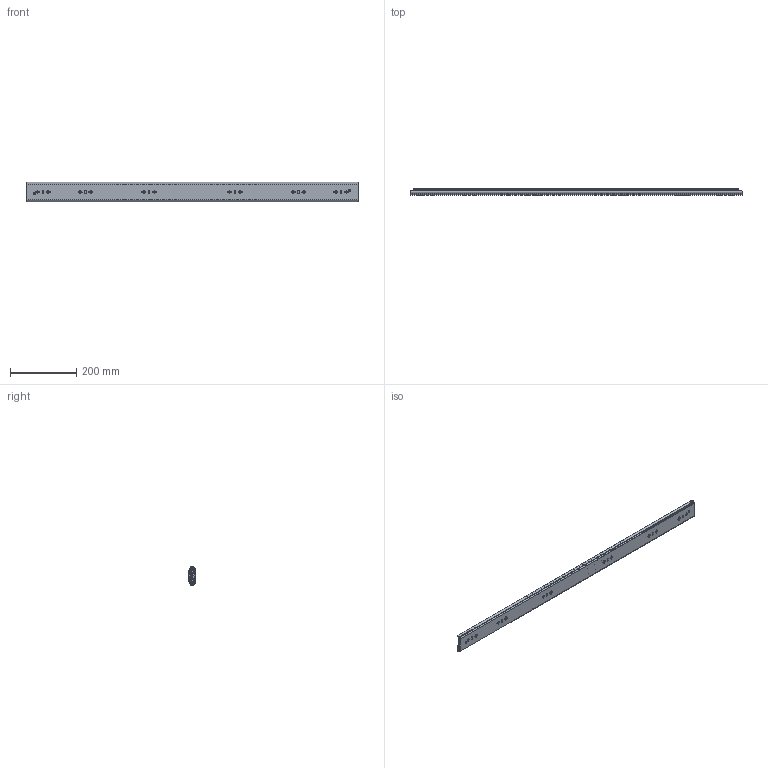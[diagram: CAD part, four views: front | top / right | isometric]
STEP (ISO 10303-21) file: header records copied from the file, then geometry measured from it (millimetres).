
FILE_DESCRIPTION((''),'2;1');
FILE_NAME('1057-C-40_ASM','2023-11-23T',('jishu015'),(''),'PRO/ENGINEER BY PARAMETRIC TECHNOLOGY CORPORATION, 2010280','PRO/ENGINEER BY PARAMETRIC TECHNOLOGY CORPORATION, 2010280','');
FILE_SCHEMA(('CONFIG_CONTROL_DESIGN'));
Products named in the file (19): KP-57-01WEIKE-31__________; MAODING-WAI__________; 1057DAZHUJIA-20GE1__________; 1057ZHUJIADANWEIJIAO123______; 1057-5-6GANZHU1__________; 1057DAZHUJIA-20GE_12__ASM; 1057-C-20-KE___________ASM; KP-57-01ZHONGGUI-36__; PEIJIAN-22__________; ZHUANJIAO112__________; LIUJIAO-DING11__________; MAODING-P__________; PEIJIAN-ZHONG___________ASM; 1057XIAOZHUJIA___20___________; 1057XIAOZHUJIA-20GE____________ASM; KP-57-01ZHONGGUI-36___ASM; KP-57-01NEIGUI-241__________; KP-57-01NEIGUI-241___________ASM; 1057-C-40_ASM
Assembly tree (160 placements, depth 4):
  1057-C-40_ASM
    1057-C-20-KE___________ASM
      KP-57-01WEIKE-31__________
      MAODING-WAI__________  x2
      1057DAZHUJIA-20GE_12__ASM
        1057DAZHUJIA-20GE1__________
        1057ZHUJIADANWEIJIAO123______  x2
        1057-5-6GANZHU1__________  x68
    KP-57-01ZHONGGUI-36___ASM
      KP-57-01ZHONGGUI-36__
      PEIJIAN-ZHONG___________ASM  x2
        PEIJIAN-22__________
        ZHUANJIAO112__________
        LIUJIAO-DING11__________
        MAODING-P__________
      MAODING-WAI__________  x2
      1057XIAOZHUJIA-20GE____________ASM
        1057XIAOZHUJIA___20___________
        1057-5-6GANZHU1__________  x68
        1057ZHUJIADANWEIJIAO123______  x2
    KP-57-01NEIGUI-241___________ASM
      KP-57-01NEIGUI-241__________
Bounding box: 1000 x 19.8 x 57.67 mm (x, y, z)
Volume: 433308.5 mm3; surface area: 505440.7 mm2
Topology: 157 solids, 157 shells, 4122 faces, 11462 edges, 7104 vertices
Faces by surface type: plane 1840, cylinder 1680, sphere 278, bspline 122, cone 114, torus 88
Entity records: 117862 total; most frequent: CARTESIAN_POINT 24791, DIRECTION 19780, ORIENTED_EDGE 19314, EDGE_CURVE 9657, AXIS2_PLACEMENT_3D 6836, VERTEX_POINT 6216, VECTOR 6108, LINE 6108
